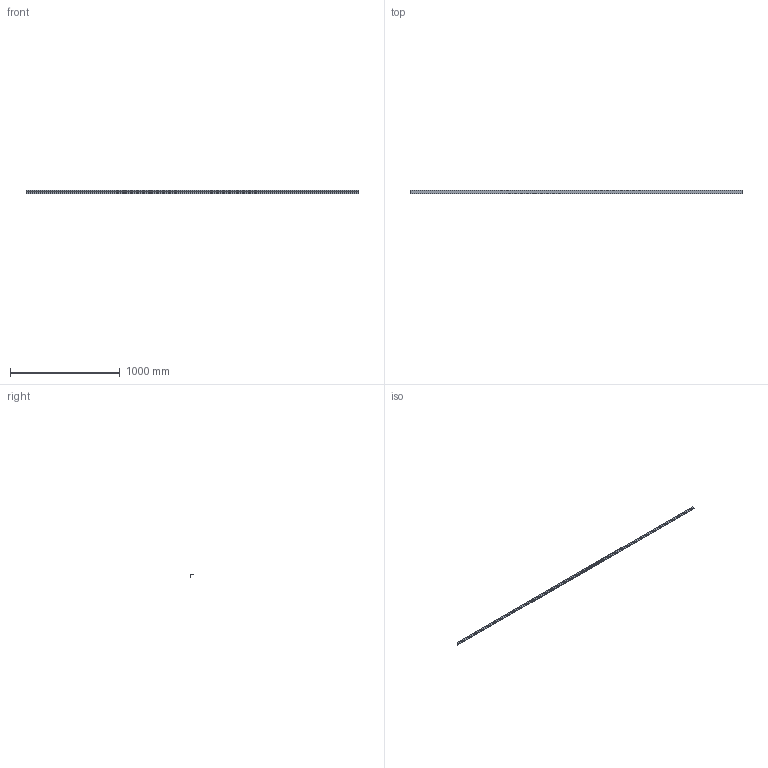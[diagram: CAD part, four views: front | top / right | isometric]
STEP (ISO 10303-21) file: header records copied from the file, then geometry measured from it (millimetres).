
FILE_DESCRIPTION (( 'STEP AP203' ), '1' );
FILE_NAME ('Corner Profile.STEP', '2026-04-20T12:48:26', ( '' ), ( '' ), 'SwSTEP 2.0', 'SolidWorks 2025', '' );
FILE_SCHEMA (( 'CONFIG_CONTROL_DESIGN' ));
Length unit declared in the file: millimetre
Products named in the file (1): Corner Profile
Bounding box: 3020 x 29.65 x 29.65 mm (x, y, z)
Volume: 273102.2 mm3; surface area: 490562.6 mm2
Topology: 1 solids, 1 shells, 42 faces, 120 edges, 80 vertices
Faces by surface type: plane 24, cylinder 18
Entity records: 1461 total; most frequent: CARTESIAN_POINT 243, DIRECTION 242, ORIENTED_EDGE 240, EDGE_CURVE 120, VECTOR 84, LINE 84, VERTEX_POINT 80, AXIS2_PLACEMENT_3D 79
